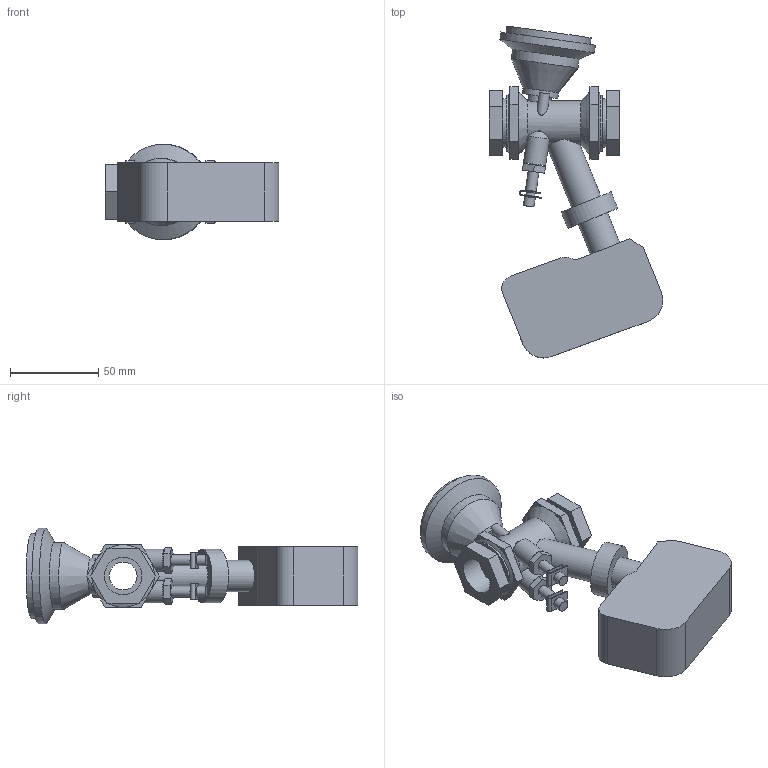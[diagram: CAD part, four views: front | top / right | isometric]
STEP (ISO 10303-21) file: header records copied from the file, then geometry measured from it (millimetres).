
FILE_DESCRIPTION(/* description */ ('VIC BALANCING AND CONTROL VALVE SERIES 7CP (FPT)-TA ACT','CAx-IF Rec.Pracs.---Representation and Presentation of Product Manufacturing Information (PMI)---4.0---2014-10-13'),/* implementation_level */ '2;1');
FILE_NAME(/* name */ 'C:\Users\Vjadhav\AppData\Roaming\Autodesk\ApplicationPlugins\Victaulic.Temp\A633\Victaulic_IPS_Valve Balancing Pressure Independent_TA Series 7CP (FPT)_TA ACT_0.5 (15).stp',/* time_stamp */ '2021-09-14T20:02:59+06:00',/* author */ ('Vjadhav'),/* organization */ ('Victaulic'),/* preprocessor_version */ 'ST-DEVELOPER v17.2',/* originating_system */ 'Autodesk Inventor 2019',/* authorisation */ '');
FILE_SCHEMA (('AP242_MANAGED_MODEL_BASED_3D_ENGINEERING_MIM_LF { 1 0 10303 442 1 1 4 }'));
Length unit declared in the file: inch
Products named in the file (2): 7CP_TA ACT-0.5; 7CP-0.5
Assembly tree (1 placements, depth 2):
  7CP_TA ACT-0.5
    7CP-0.5
Bounding box: 98.52 x 188.47 x 54.1 mm (x, y, z)
Volume: 229243.3 mm3; surface area: 47819.8 mm2
Topology: 1 solids, 1 shells, 172 faces, 440 edges, 294 vertices
Faces by surface type: plane 118, cylinder 46, cone 8
Full cylindrical faces by diameter (mm): 5.08 x6, 6.096 x8, 12.7 x2, 15.799 x2, 17.78 x2, 20.32 x1, 21.336 x3, 25.4 x1, 27.432 x2, 30.471 x1, 31.75 x2, 38.1 x1, 48.26 x1, 54.102 x1
Entity records: 5782 total; most frequent: CARTESIAN_POINT 1154, DIRECTION 942, ORIENTED_EDGE 880, EDGE_CURVE 440, AXIS2_PLACEMENT_3D 348, VERTEX_POINT 294, LINE 246, VECTOR 246
